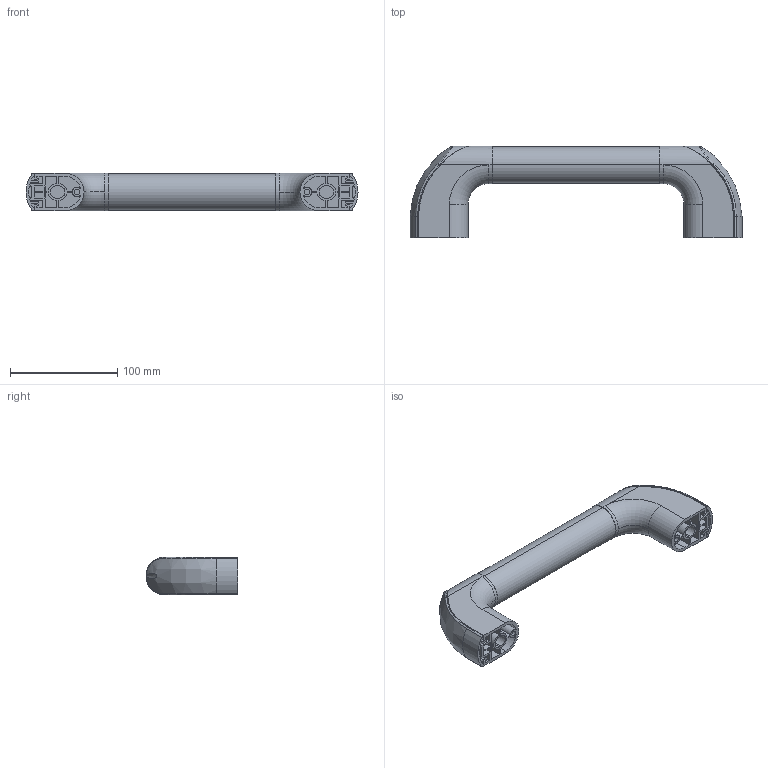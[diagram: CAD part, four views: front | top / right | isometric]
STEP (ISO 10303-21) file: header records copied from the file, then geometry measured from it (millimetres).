
FILE_DESCRIPTION (( 'STEP AP203' ), '1' );
FILE_NAME ('SK4-224-34-250C.STEP', '2017-06-27T06:19:51', ( 'admin' ), ( 'Microsoft' ), 'SwSTEP 2.0', 'SolidWorks 2015', '' );
FILE_SCHEMA (( 'CONFIG_CONTROL_DESIGN' ));
Length unit declared in the file: millimetre
Products named in the file (3): SK4-224-34-250C; SK4-224-34-250C 釱赽
Assembly tree (3 placements, depth 2):
  SK4-224-34-250C
    SK4-224-34-250C
    SK4-224-34-250C 釱赽  x2
Bounding box: 309 x 85.5 x 35 mm (x, y, z)
Volume: 394901.9 mm3; surface area: 70735.8 mm2
Topology: 3 solids, 3 shells, 272 faces, 714 edges, 460 vertices
Faces by surface type: plane 174, cylinder 56, bspline 38, torus 4
Entity records: 5919 total; most frequent: CARTESIAN_POINT 2306, ORIENTED_EDGE 716, DIRECTION 624, EDGE_CURVE 358, VECTOR 258, LINE 258, VERTEX_POINT 232, AXIS2_PLACEMENT_3D 183
